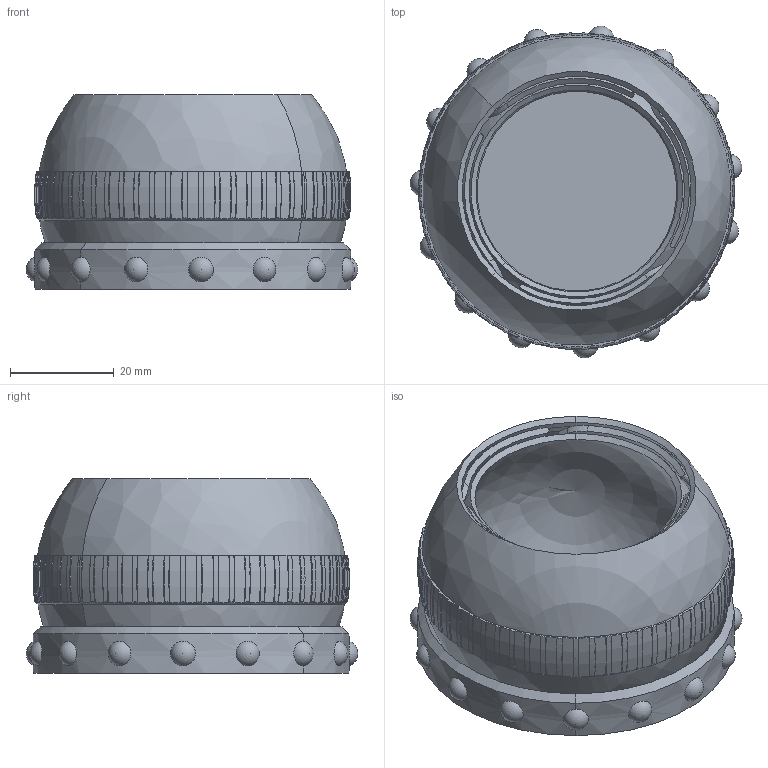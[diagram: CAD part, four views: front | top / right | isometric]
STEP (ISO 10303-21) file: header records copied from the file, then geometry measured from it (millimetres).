
FILE_DESCRIPTION (( 'STEP AP214' ), '1' );
FILE_NAME ('eyeball4_x.STEP', '2023-10-18T01:09:10', ( '' ), ( '' ), 'SwSTEP 2.0', 'SolidWorks 2023', '' );
FILE_SCHEMA (( 'AUTOMOTIVE_DESIGN' ));
Length unit declared in the file: inch
Products named in the file (1): eyeball4_x
Bounding box: 63.85 x 63.85 x 37.47 mm (x, y, z)
Volume: 27874.8 mm3; surface area: 43405.5 mm2
Topology: 2 solids, 2 shells, 579 faces, 1784 edges, 1177 vertices
Faces by surface type: plane 309, sphere 167, cylinder 67, cone 24, bspline 12
Entity records: 22192 total; most frequent: CARTESIAN_POINT 6162, DIRECTION 3544, ORIENTED_EDGE 3452, EDGE_CURVE 1726, AXIS2_PLACEMENT_3D 1536, VERTEX_POINT 1142, CIRCLE 968, EDGE_LOOP 620
